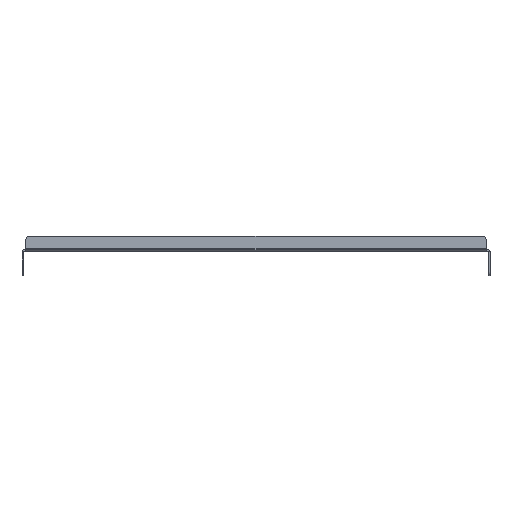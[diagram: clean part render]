
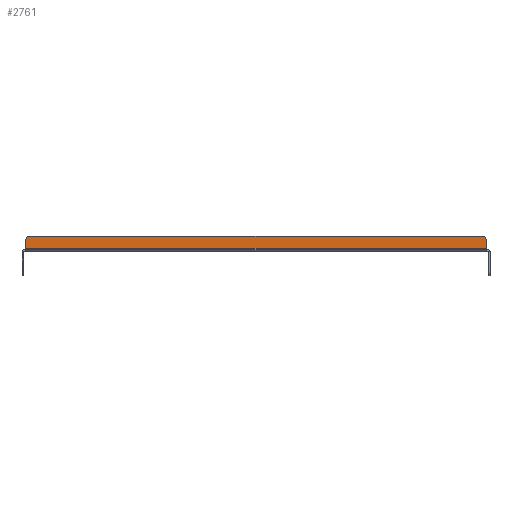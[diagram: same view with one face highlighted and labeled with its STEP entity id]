
A CAD part, left-side view. The second image highlights one B-rep face of the part: STEP entity #2761.
In plain terms, the highlighted planar face has unit normal (-1, 0, 0).
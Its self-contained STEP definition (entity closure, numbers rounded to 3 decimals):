
#26 = CARTESIAN_POINT ( 'NONE',  ( -249., -273.25, 18. ) ) ;
#87 = VERTEX_POINT ( 'NONE', #26 ) ;
#111 = VECTOR ( 'NONE', #1518, 1000. ) ;
#124 = ORIENTED_EDGE ( 'NONE', *, *, #1115, .T. ) ;
#141 = EDGE_CURVE ( 'NONE', #457, #87, #451, .T. ) ;
#185 = VECTOR ( 'NONE', #609, 1000. ) ;
#214 = EDGE_CURVE ( 'NONE', #2470, #2838, #1551, .T. ) ;
#239 = CARTESIAN_POINT ( 'NONE',  ( -249., -278.25, 13. ) ) ;
#247 = EDGE_CURVE ( 'NONE', #87, #726, #313, .T. ) ;
#287 = CARTESIAN_POINT ( 'NONE',  ( -249., 273.25, 13. ) ) ;
#313 = LINE ( 'NONE', #1040, #185 ) ;
#338 = EDGE_CURVE ( 'NONE', #457, #2605, #1203, .T. ) ;
#344 = DIRECTION ( 'NONE',  ( 0., 0., 1. ) ) ;
#379 = LINE ( 'NONE', #1348, #2635 ) ;
#451 = CIRCLE ( 'NONE', #1284, 5. ) ;
#457 = VERTEX_POINT ( 'NONE', #239 ) ;
#468 = DIRECTION ( 'NONE',  ( 0., -1., 0. ) ) ;
#504 = DIRECTION ( 'NONE',  ( 0., 0., 1. ) ) ;
#571 = FACE_OUTER_BOUND ( 'NONE', #1419, .T. ) ;
#586 = DIRECTION ( 'NONE',  ( 0., 0., 1. ) ) ;
#609 = DIRECTION ( 'NONE',  ( 0., 1., 0. ) ) ;
#617 = AXIS2_PLACEMENT_3D ( 'NONE', #287, #1817, #504 ) ;
#726 = VERTEX_POINT ( 'NONE', #2276 ) ;
#771 = ORIENTED_EDGE ( 'NONE', *, *, #338, .F. ) ;
#880 = ORIENTED_EDGE ( 'NONE', *, *, #2047, .T. ) ;
#891 = CARTESIAN_POINT ( 'NONE',  ( -249., 278.25, 2.5 ) ) ;
#978 = ORIENTED_EDGE ( 'NONE', *, *, #247, .T. ) ;
#987 = PLANE ( 'NONE',  #2592 ) ;
#1040 = CARTESIAN_POINT ( 'NONE',  ( -249., -296.423, 18. ) ) ;
#1115 = EDGE_CURVE ( 'NONE', #2470, #2605, #379, .T. ) ;
#1199 = DIRECTION ( 'NONE',  ( -1., 0., 0. ) ) ;
#1203 = LINE ( 'NONE', #2835, #111 ) ;
#1284 = AXIS2_PLACEMENT_3D ( 'NONE', #1615, #1658, #344 ) ;
#1348 = CARTESIAN_POINT ( 'NONE',  ( -249., -296.423, 2.5 ) ) ;
#1399 = CIRCLE ( 'NONE', #617, 5. ) ;
#1410 = VECTOR ( 'NONE', #586, 1000. ) ;
#1419 = EDGE_LOOP ( 'NONE', ( #771, #2208, #978, #880, #1756, #124 ) ) ;
#1518 = DIRECTION ( 'NONE',  ( 0., 0., -1. ) ) ;
#1551 = LINE ( 'NONE', #2556, #1410 ) ;
#1586 = CARTESIAN_POINT ( 'NONE',  ( -249., -278.25, 2.5 ) ) ;
#1615 = CARTESIAN_POINT ( 'NONE',  ( -249., -273.25, 13. ) ) ;
#1658 = DIRECTION ( 'NONE',  ( -1., 0., 0. ) ) ;
#1756 = ORIENTED_EDGE ( 'NONE', *, *, #214, .F. ) ;
#1817 = DIRECTION ( 'NONE',  ( -1., 0., 0. ) ) ;
#2047 = EDGE_CURVE ( 'NONE', #726, #2838, #1399, .T. ) ;
#2208 = ORIENTED_EDGE ( 'NONE', *, *, #141, .T. ) ;
#2276 = CARTESIAN_POINT ( 'NONE',  ( -249., 273.25, 18. ) ) ;
#2325 = CARTESIAN_POINT ( 'NONE',  ( -249., 278.25, 13. ) ) ;
#2470 = VERTEX_POINT ( 'NONE', #891 ) ;
#2512 = CARTESIAN_POINT ( 'NONE',  ( -249., -296.423, 0. ) ) ;
#2556 = CARTESIAN_POINT ( 'NONE',  ( -249., 278.25, 0. ) ) ;
#2592 = AXIS2_PLACEMENT_3D ( 'NONE', #2512, #1199, #2738 ) ;
#2605 = VERTEX_POINT ( 'NONE', #1586 ) ;
#2635 = VECTOR ( 'NONE', #468, 1000. ) ;
#2738 = DIRECTION ( 'NONE',  ( 0., 0., 1. ) ) ;
#2761 = ADVANCED_FACE ( 'NONE', ( #571 ), #987, .T. ) ;
#2835 = CARTESIAN_POINT ( 'NONE',  ( -249., -278.25, 0. ) ) ;
#2838 = VERTEX_POINT ( 'NONE', #2325 ) ;
